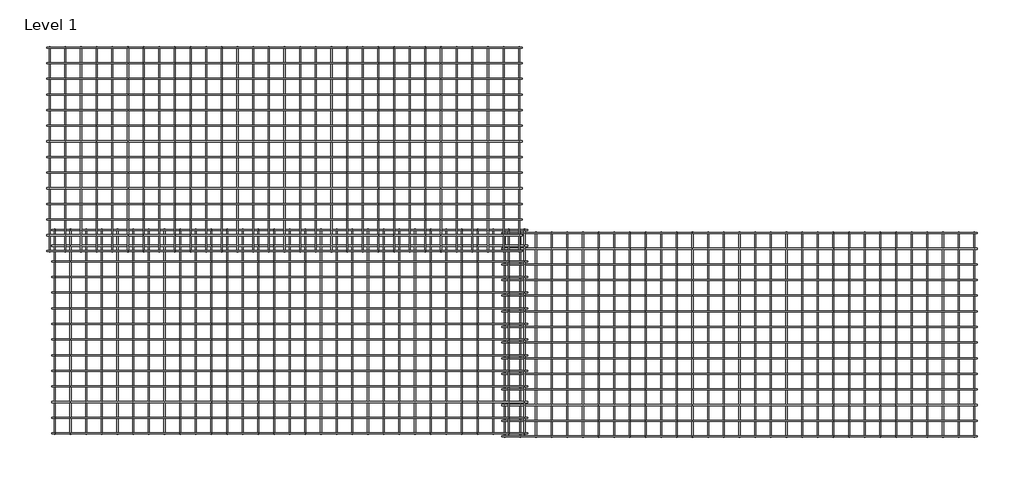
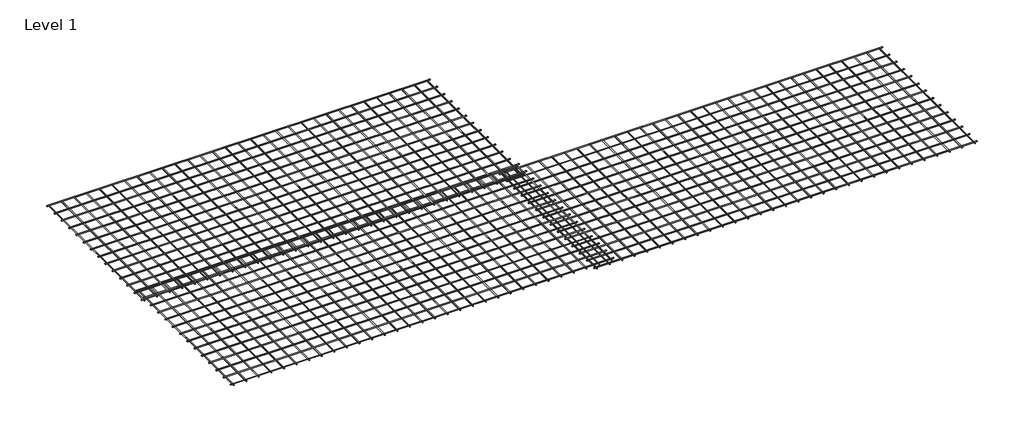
# One storey: 3 proxies.
"""IFC4 building model written with IfcOpenShell, lengths in millimetres."""

from ifc_helpers import new_model, si_unit, origin, place, context, project, spatial, transform, mapped, element, save
from components import united_steel_665_standard_mesh_united_steel_665_standard_acaadd5a

model = new_model("IFC4")

# Units and contexts
model_context = context("Model", 3, world=origin())
ifc_project = project(units=[si_unit("LENGTHUNIT", "METRE", prefix="MILLI")], contexts=[model_context])

# Site, building, storey
site = spatial("IfcSite", under=ifc_project)
building = spatial("IfcBuilding", under=site)
storey = spatial("IfcBuildingStorey", under=building, Name="Level 1", Elevation=0.0)

# Proxies
placement = place(None, origin())
united_steel_665_standard_mesh_united_steel_665_standard_shape = united_steel_665_standard_mesh_united_steel_665_standard_acaadd5a(model_context)
element("IfcBuildingElementProxy", 1, Name="United Steel 665 Standard Mesh : United Steel 665 Standard Mesh", ObjectType="United Steel 665 Standard Mesh : United Steel 665 Standard Mesh", at=placement, inside=storey, context=model_context, shape_type="MappedRepresentation", body=[
    mapped(united_steel_665_standard_mesh_united_steel_665_standard_shape, transform((5536.2856589, 2171.3157499, 84.375), x_axis=(1.0, 0.0, 0.0), y_axis=(0.0, 1.0, 0.0), z_axis=(0.0, 0.0, 1.0))),
])
element("IfcBuildingElementProxy", 2, Name="United Steel 665 Standard Mesh : United Steel 665 Standard Mesh", ObjectType="United Steel 665 Standard Mesh : United Steel 665 Standard Mesh", at=placement, inside=storey, context=model_context, shape_type="MappedRepresentation", body=[
    mapped(united_steel_665_standard_mesh_united_steel_665_standard_shape, transform((5486.2856589, 3922.0074308, 105.546875), x_axis=(1.0, 0.0, 0.0), y_axis=(0.0, 1.0, 0.0), z_axis=(0.0, 0.0, 1.0))),
])
element("IfcBuildingElementProxy", 3, Name="United Steel 665 Standard Mesh : United Steel 665 Standard Mesh", ObjectType="United Steel 665 Standard Mesh : United Steel 665 Standard Mesh", at=placement, inside=storey, context=model_context, shape_type="MappedRepresentation", body=[
    mapped(united_steel_665_standard_mesh_united_steel_665_standard_shape, transform((9846.1955059, 2142.5757703, 63.1835938), x_axis=(1.0, 0.0, 0.0), y_axis=(0.0, 1.0, 0.0), z_axis=(0.0, 0.0, 1.0))),
])

save(model, "model.ifc")
